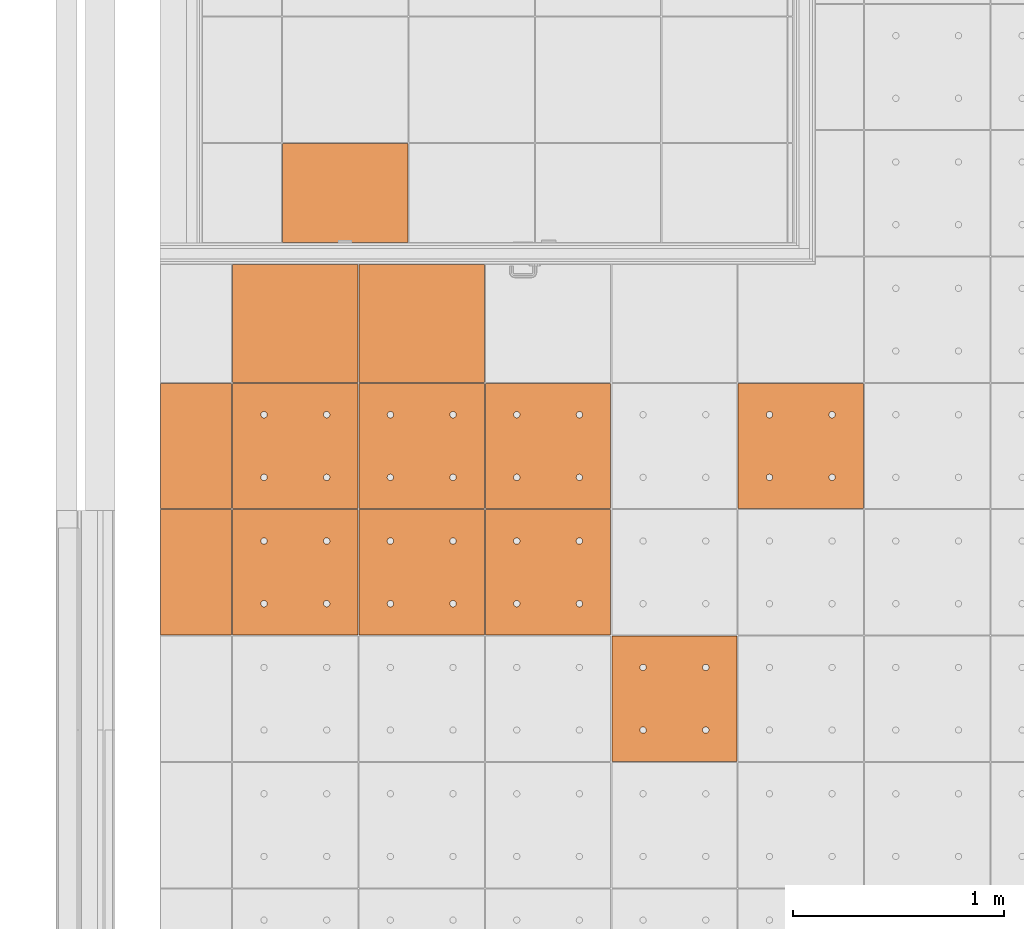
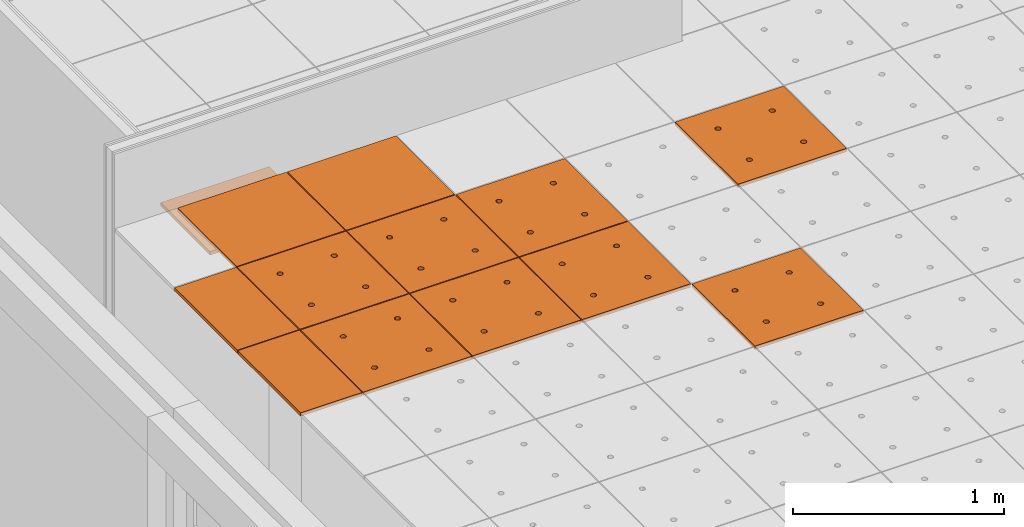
# One storey, part 240 of 338: 13 proxies, 2 elements without a shape of their own.
"""IFC2X3 building model written with IfcOpenShell, lengths in millimetres."""

from ifc_helpers import new_model, entity, si_unit, converted_unit, derived_unit, money_unit, direction, frame, origin_with_axes, place, context, subcontext, project, spatial, faceted_brep, source, transform, mapped, material, type_object, type_shapes, element, aggregate, save


model = new_model("IFC2X3")

# Units and contexts
model_context = context("Model", 3, precision=0.01, world=origin_with_axes(), true_north=direction((0.0, 1.0)))
plan_context = context("Plan", 3, precision=0.01, world=origin_with_axes(), true_north=direction((0.0, 1.0)))
body_context = subcontext(model_context, "Body", "Model", "MODEL_VIEW")
ifc_project = project(units=[si_unit("LENGTHUNIT", "METRE", prefix="MILLI"), si_unit("AREAUNIT", "SQUARE_METRE"), si_unit("VOLUMEUNIT", "CUBIC_METRE"), converted_unit("PLANEANGLEUNIT", "DEGREE", entity("IfcPlaneAngleMeasure", 0.0174532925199), si_unit("PLANEANGLEUNIT", "RADIAN"), dimensions=[0, 0, 0, 0, 0, 0, 0]), money_unit("EUR"), converted_unit("TIMEUNIT", "Year", entity("IfcTimeMeasure", 31556926.0), si_unit("TIMEUNIT", "SECOND"), dimensions=[0, 0, 1, 0, 0, 0, 0]), si_unit("MASSUNIT", "GRAM", prefix="KILO"), si_unit("THERMODYNAMICTEMPERATUREUNIT", "DEGREE_CELSIUS"), si_unit("LUMINOUSINTENSITYUNIT", "LUMEN"), si_unit("ENERGYUNIT", "JOULE", prefix="MEGA"), derived_unit("THERMALCONDUCTANCEUNIT", [(si_unit("POWERUNIT", "WATT"), 1), (si_unit("LENGTHUNIT", "METRE"), -1), (si_unit("THERMODYNAMICTEMPERATUREUNIT", "KELVIN"), -1)]), derived_unit("SPECIFICHEATCAPACITYUNIT", [(si_unit("ENERGYUNIT", "JOULE"), 1), (si_unit("MASSUNIT", "GRAM", prefix="KILO"), -1), (si_unit("THERMODYNAMICTEMPERATUREUNIT", "KELVIN"), -1)]), derived_unit("MASSDENSITYUNIT", [(si_unit("MASSUNIT", "GRAM", prefix="KILO"), 1), (si_unit("VOLUMEUNIT", "CUBIC_METRE"), -1)])], contexts=[model_context, plan_context])

# Site, building, storey
site_placement = place(None, origin_with_axes())
site = spatial("IfcSite", under=ifc_project, at=site_placement, Name="Fortuinstraat Woensdrecht", CompositionType="ELEMENT")
building_placement = place(site_placement, origin_with_axes())
building = spatial("IfcBuilding", under=site, at=building_placement, Name="IKC Fortuna", CompositionType="ELEMENT")
storey_placement = place(building_placement, origin_with_axes())
storey = spatial("IfcBuildingStorey", under=building, at=storey_placement, Name="00 begane grond", CompositionType="ELEMENT", Elevation=0.0)

# Covering, proxy
covering_type = type_object("IfcCoveringType", Name="Curtain Wall Type", PredefinedType="CEILING")
covering_1_placement = place(storey_placement, frame((14689.4846177, 25257.3287491, 2810.0), z_axis=(0.0, 0.0, 1.0), x_axis=(1.0, 0.0, 0.0)))
covering_1 = element("IfcCovering", 1, at=covering_1_placement, inside=storey, type_object=covering_type, Name="45_Plafondafwerking_P02", PredefinedType="CEILING")
ifc_material = material(Name="Gipsplaat")
building_element_proxy_type_1 = type_object("IfcBuildingElementProxyType", Name="Distinct Panel 600 x 475 x 20", PredefinedType="NOTDEFINED")
shared_shape_1 = source(origin_with_axes(), body_context, "Body", "Brep", [
    faceted_brep([(-2.49999999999, 2.50000037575, -10.0), (-2.49999999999, 2.50000037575, 10.0), (-597.5, 2.50000037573, 10.0), (-597.5, 2.50000037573, -10.0), (-2.50000000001, 472.282240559, -10.0), (-2.50000000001, 472.282240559, 10.0), (-597.5, 472.282240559, 10.0), (-597.5, 472.282240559, -10.0)], [[[0, 1, 2, 3]], [[4, 5, 1, 0]], [[1, 5, 6, 2]], [[3, 2, 6, 7]], [[0, 3, 7, 4]], [[7, 6, 5, 4]]]),
])
type_shapes(building_element_proxy_type_1, [shared_shape_1])
proxy_1_placement = place(covering_1_placement, frame((0.0, -1737.39112028, 0.0), z_axis=(0.0, 0.0, 1.0), x_axis=(1.0, 0.0, 0.0)))
proxy_1 = element("IfcBuildingElementProxy", 2, at=proxy_1_placement, type_object=building_element_proxy_type_1, material=ifc_material, Name="__Panel-D", context=body_context, shape_type="MappedRepresentation", body=[
    mapped(shared_shape_1, transform((-300.0, 237.391120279, 0.0), x_axis=(-1.0, 0.0, 0.0), y_axis=(0.0, -1.0, 0.0), z_axis=(0.0, 0.0, 1.0))),
])
aggregate(covering_1, [proxy_1])

# Covering, proxies
covering_2_placement = place(storey_placement, frame((17451.9845996, 24118.5314449, 3210.0), z_axis=(0.0, 0.0, 1.0), x_axis=(1.0, 0.0, 0.0)))
covering_2 = element("IfcCovering", 3, at=covering_2_placement, inside=storey, type_object=covering_type, Name="45_Plafondafwerking_P01", PredefinedType="CEILING")
building_element_proxy_type_2 = type_object("IfcBuildingElementProxyType", Name="Main Panel 600 x 600 x 20", PredefinedType="NOTDEFINED")
shared_shape_2 = source(origin_with_axes(), body_context, "Body", "Brep", [
    faceted_brep([(2.49999999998, 2.49999999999, -10.0), (300.0, 2.49999999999, -10.0), (300.0, 2.49999999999, 10.0), (2.49999999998, 2.49999999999, 10.0), (2.49999999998, 300.0, -10.0), (2.49999999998, 597.5, -10.0), (300.0, 597.5, -10.0), (597.5, 597.5, -10.0), (597.5, 300.0, -10.0), (597.5, 2.49999999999, -10.0), (166.25, 450.06232995, -10.0), (165.79423259, 452.64711538, -10.0), (164.896546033, 455.11348892, -10.0), (163.58421608, 457.38651108, -10.0), (161.897117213, 459.39711721, -10.0), (159.886511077, 461.08421608, -10.0), (157.613488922, 462.39654603, -10.0), (155.147115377, 463.29423259, -10.0), (152.562329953, 463.75, -10.0), (149.937670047, 463.75, -10.0), (147.352884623, 463.29423259, -10.0), (144.886511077, 462.39654603, -10.0), (142.613488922, 461.08421608, -10.0), (140.602882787, 459.39711721, -10.0), (138.91578392, 457.38651108, -10.0), (137.603453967, 455.11348892, -10.0), (136.705767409, 452.64711538, -10.0), (136.25, 450.06232995, -10.0), (136.25, 448.75, -10.0), (136.25, 447.43767005, -10.0), (136.705767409, 444.85288462, -10.0), (137.603453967, 442.38651108, -10.0), (138.91578392, 440.11348892, -10.0), (140.602882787, 438.10288279, -10.0), (142.613488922, 436.41578392, -10.0), (144.886511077, 435.10345397, -10.0), (147.352884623, 434.20576741, -10.0), (149.937670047, 433.75, -10.0), (152.562329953, 433.75, -10.0), (155.147115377, 434.20576741, -10.0), (157.613488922, 435.10345397, -10.0), (159.886511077, 436.41578392, -10.0), (161.897117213, 438.10288279, -10.0), (163.58421608, 440.11348892, -10.0), (164.896546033, 442.38651108, -10.0), (165.79423259, 444.85288462, -10.0), (166.25, 447.43767005, -10.0), (463.75, 450.06232995, -10.0), (463.29423259, 452.64711538, -10.0), (462.396546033, 455.11348892, -10.0), (461.08421608, 457.38651108, -10.0), (459.397117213, 459.39711721, -10.0), (457.386511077, 461.08421608, -10.0), (455.113488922, 462.39654603, -10.0), (452.647115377, 463.29423259, -10.0), (450.062329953, 463.75, -10.0), (447.437670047, 463.75, -10.0), (444.852884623, 463.29423259, -10.0), (442.386511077, 462.39654603, -10.0), (440.113488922, 461.08421608, -10.0), (438.102882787, 459.39711721, -10.0), (436.41578392, 457.38651108, -10.0), (435.103453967, 455.11348892, -10.0), (434.205767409, 452.64711538, -10.0), (433.75, 450.06232995, -10.0), (433.75, 448.75, -10.0), (433.75, 447.43767005, -10.0), (434.205767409, 444.85288462, -10.0), (435.103453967, 442.38651108, -10.0), (436.41578392, 440.11348892, -10.0), (438.102882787, 438.10288279, -10.0), (440.113488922, 436.41578392, -10.0), (442.386511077, 435.10345397, -10.0), (444.852884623, 434.20576741, -10.0), (447.437670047, 433.75, -10.0), (450.062329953, 433.75, -10.0), (452.647115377, 434.20576741, -10.0), (455.113488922, 435.10345397, -10.0), (457.386511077, 436.41578392, -10.0), (459.397117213, 438.10288279, -10.0), (461.08421608, 440.11348892, -10.0), (462.396546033, 442.38651108, -10.0), (463.29423259, 444.85288462, -10.0), (463.75, 447.43767005, -10.0), (463.75, 152.56232995, -10.0), (463.29423259, 155.14711538, -10.0), (462.396546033, 157.61348892, -10.0), (461.08421608, 159.88651108, -10.0), (459.397117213, 161.89711721, -10.0), (457.386511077, 163.58421608, -10.0), (455.113488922, 164.89654603, -10.0), (452.647115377, 165.79423259, -10.0), (450.062329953, 166.25, -10.0), (447.437670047, 166.25, -10.0), (444.852884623, 165.79423259, -10.0), (442.386511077, 164.89654603, -10.0), (440.113488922, 163.58421608, -10.0), (438.102882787, 161.89711721, -10.0), (436.41578392, 159.88651108, -10.0), (435.103453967, 157.61348892, -10.0), (434.205767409, 155.14711538, -10.0), (433.75, 152.56232995, -10.0), (433.75, 151.25, -10.0), (433.75, 149.93767005, -10.0), (434.205767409, 147.35288462, -10.0), (435.103453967, 144.88651108, -10.0), (436.41578392, 142.61348892, -10.0), (438.102882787, 140.60288279, -10.0), (440.113488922, 138.91578392, -10.0), (442.386511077, 137.60345397, -10.0), (444.852884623, 136.70576741, -10.0), (447.437670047, 136.25, -10.0), (450.062329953, 136.25, -10.0), (452.647115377, 136.70576741, -10.0), (455.113488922, 137.60345397, -10.0), (457.386511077, 138.91578392, -10.0), (459.397117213, 140.60288279, -10.0), (461.08421608, 142.61348892, -10.0), (462.396546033, 144.88651108, -10.0), (463.29423259, 147.35288462, -10.0), (463.75, 149.93767005, -10.0), (166.25, 152.56232995, -10.0), (165.79423259, 155.14711538, -10.0), (164.896546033, 157.61348892, -10.0), (163.58421608, 159.88651108, -10.0), (161.897117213, 161.89711721, -10.0), (159.886511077, 163.58421608, -10.0), (157.613488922, 164.89654603, -10.0), (155.147115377, 165.79423259, -10.0), (152.562329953, 166.25, -10.0), (149.937670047, 166.25, -10.0), (147.352884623, 165.79423259, -10.0), (144.886511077, 164.89654603, -10.0), (142.613488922, 163.58421608, -10.0), (140.602882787, 161.89711721, -10.0), (138.91578392, 159.88651108, -10.0), (137.603453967, 157.61348892, -10.0), (136.705767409, 155.14711538, -10.0), (136.25, 152.56232995, -10.0), (136.25, 151.25, -10.0), (136.25, 149.93767005, -10.0), (136.705767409, 147.35288462, -10.0), (137.603453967, 144.88651108, -10.0), (138.91578392, 142.61348892, -10.0), (140.602882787, 140.60288279, -10.0), (142.613488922, 138.91578392, -10.0), (144.886511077, 137.60345397, -10.0), (147.352884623, 136.70576741, -10.0), (149.937670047, 136.25, -10.0), (152.562329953, 136.25, -10.0), (155.147115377, 136.70576741, -10.0), (157.613488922, 137.60345397, -10.0), (159.886511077, 138.91578392, -10.0), (161.897117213, 140.60288279, -10.0), (163.58421608, 142.61348892, -10.0), (164.896546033, 144.88651108, -10.0), (165.79423259, 147.35288462, -10.0), (166.25, 149.93767005, -10.0), (597.5, 2.49999999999, 10.0), (597.5, 300.0, 10.0), (597.5, 597.5, 10.0), (300.0, 597.5, 10.0), (2.49999999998, 597.5, 10.0), (2.49999999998, 300.0, 10.0), (166.25, 450.06232995, 10.0), (166.25, 447.43767005, 10.0), (165.79423259, 444.85288462, 10.0), (164.896546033, 442.38651108, 10.0), (163.58421608, 440.11348892, 10.0), (161.897117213, 438.10288279, 10.0), (159.886511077, 436.41578392, 10.0), (157.613488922, 435.10345397, 10.0), (155.147115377, 434.20576741, 10.0), (152.562329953, 433.75, 10.0), (149.937670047, 433.75, 10.0), (147.352884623, 434.20576741, 10.0), (144.886511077, 435.10345397, 10.0), (142.613488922, 436.41578392, 10.0), (140.602882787, 438.10288279, 10.0), (138.91578392, 440.11348892, 10.0), (137.603453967, 442.38651108, 10.0), (136.705767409, 444.85288462, 10.0), (136.25, 447.43767005, 10.0), (136.25, 448.75, 10.0), (136.25, 450.06232995, 10.0), (136.705767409, 452.64711538, 10.0), (137.603453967, 455.11348892, 10.0), (138.91578392, 457.38651108, 10.0), (140.602882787, 459.39711721, 10.0), (142.613488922, 461.08421608, 10.0), (144.886511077, 462.39654603, 10.0), (147.352884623, 463.29423259, 10.0), (149.937670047, 463.75, 10.0), (152.562329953, 463.75, 10.0), (155.147115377, 463.29423259, 10.0), (157.613488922, 462.39654603, 10.0), (159.886511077, 461.08421608, 10.0), (161.897117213, 459.39711721, 10.0), (163.58421608, 457.38651108, 10.0), (164.896546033, 455.11348892, 10.0), (165.79423259, 452.64711538, 10.0), (463.75, 450.06232995, 10.0), (463.75, 447.43767005, 10.0), (463.29423259, 444.85288462, 10.0), (462.396546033, 442.38651108, 10.0), (461.08421608, 440.11348892, 10.0), (459.397117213, 438.10288279, 10.0), (457.386511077, 436.41578392, 10.0), (455.113488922, 435.10345397, 10.0), (452.647115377, 434.20576741, 10.0), (450.062329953, 433.75, 10.0), (447.437670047, 433.75, 10.0), (444.852884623, 434.20576741, 10.0), (442.386511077, 435.10345397, 10.0), (440.113488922, 436.41578392, 10.0), (438.102882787, 438.10288279, 10.0), (436.41578392, 440.11348892, 10.0), (435.103453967, 442.38651108, 10.0), (434.205767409, 444.85288462, 10.0), (433.75, 447.43767005, 10.0), (433.75, 448.75, 10.0), (433.75, 450.06232995, 10.0), (434.205767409, 452.64711538, 10.0), (435.103453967, 455.11348892, 10.0), (436.41578392, 457.38651108, 10.0), (438.102882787, 459.39711721, 10.0), (440.113488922, 461.08421608, 10.0), (442.386511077, 462.39654603, 10.0), (444.852884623, 463.29423259, 10.0), (447.437670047, 463.75, 10.0), (450.062329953, 463.75, 10.0), (452.647115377, 463.29423259, 10.0), (455.113488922, 462.39654603, 10.0), (457.386511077, 461.08421608, 10.0), (459.397117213, 459.39711721, 10.0), (461.08421608, 457.38651108, 10.0), (462.396546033, 455.11348892, 10.0), (463.29423259, 452.64711538, 10.0), (463.75, 152.56232995, 10.0), (463.75, 149.93767005, 10.0), (463.29423259, 147.35288462, 10.0), (462.396546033, 144.88651108, 10.0), (461.08421608, 142.61348892, 10.0), (459.397117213, 140.60288279, 10.0), (457.386511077, 138.91578392, 10.0), (455.113488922, 137.60345397, 10.0), (452.647115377, 136.70576741, 10.0), (450.062329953, 136.25, 10.0), (447.437670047, 136.25, 10.0), (444.852884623, 136.70576741, 10.0), (442.386511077, 137.60345397, 10.0), (440.113488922, 138.91578392, 10.0), (438.102882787, 140.60288279, 10.0), (436.41578392, 142.61348892, 10.0), (435.103453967, 144.88651108, 10.0), (434.205767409, 147.35288462, 10.0), (433.75, 149.93767005, 10.0), (433.75, 151.25, 10.0), (433.75, 152.56232995, 10.0), (434.205767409, 155.14711538, 10.0), (435.103453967, 157.61348892, 10.0), (436.41578392, 159.88651108, 10.0), (438.102882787, 161.89711721, 10.0), (440.113488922, 163.58421608, 10.0), (442.386511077, 164.89654603, 10.0), (444.852884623, 165.79423259, 10.0), (447.437670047, 166.25, 10.0), (450.062329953, 166.25, 10.0), (452.647115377, 165.79423259, 10.0), (455.113488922, 164.89654603, 10.0), (457.386511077, 163.58421608, 10.0), (459.397117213, 161.89711721, 10.0), (461.08421608, 159.88651108, 10.0), (462.396546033, 157.61348892, 10.0), (463.29423259, 155.14711538, 10.0), (166.25, 152.56232995, 10.0), (166.25, 149.93767005, 10.0), (165.79423259, 147.35288462, 10.0), (164.896546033, 144.88651108, 10.0), (163.58421608, 142.61348892, 10.0), (161.897117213, 140.60288279, 10.0), (159.886511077, 138.91578392, 10.0), (157.613488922, 137.60345397, 10.0), (155.147115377, 136.70576741, 10.0), (152.562329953, 136.25, 10.0), (149.937670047, 136.25, 10.0), (147.352884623, 136.70576741, 10.0), (144.886511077, 137.60345397, 10.0), (142.613488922, 138.91578392, 10.0), (140.602882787, 140.60288279, 10.0), (138.91578392, 142.61348892, 10.0), (137.603453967, 144.88651108, 10.0), (136.705767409, 147.35288462, 10.0), (136.25, 149.93767005, 10.0), (136.25, 151.25, 10.0), (136.25, 152.56232995, 10.0), (136.705767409, 155.14711538, 10.0), (137.603453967, 157.61348892, 10.0), (138.91578392, 159.88651108, 10.0), (140.602882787, 161.89711721, 10.0), (142.613488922, 163.58421608, 10.0), (144.886511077, 164.89654603, 10.0), (147.352884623, 165.79423259, 10.0), (149.937670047, 166.25, 10.0), (152.562329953, 166.25, 10.0), (155.147115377, 165.79423259, 10.0), (157.613488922, 164.89654603, 10.0), (159.886511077, 163.58421608, 10.0), (161.897117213, 161.89711721, 10.0), (163.58421608, 159.88651108, 10.0), (164.896546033, 157.61348892, 10.0), (165.79423259, 155.14711538, 10.0)], [[[0, 1, 2, 3]], [[0, 4, 5, 6, 7, 8, 9, 1], [10, 11, 12, 13, 14, 15, 16, 17, 18, 19, 20, 21, 22, 23, 24, 25, 26, 27, 28, 29, 30, 31, 32, 33, 34, 35, 36, 37, 38, 39, 40, 41, 42, 43, 44, 45, 46], [47, 48, 49, 50, 51, 52, 53, 54, 55, 56, 57, 58, 59, 60, 61, 62, 63, 64, 65, 66, 67, 68, 69, 70, 71, 72, 73, 74, 75, 76, 77, 78, 79, 80, 81, 82, 83], [84, 85, 86, 87, 88, 89, 90, 91, 92, 93, 94, 95, 96, 97, 98, 99, 100, 101, 102, 103, 104, 105, 106, 107, 108, 109, 110, 111, 112, 113, 114, 115, 116, 117, 118, 119, 120], [121, 122, 123, 124, 125, 126, 127, 128, 129, 130, 131, 132, 133, 134, 135, 136, 137, 138, 139, 140, 141, 142, 143, 144, 145, 146, 147, 148, 149, 150, 151, 152, 153, 154, 155, 156, 157]], [[1, 9, 158, 2]], [[3, 2, 158, 159, 160, 161, 162, 163], [164, 165, 166, 167, 168, 169, 170, 171, 172, 173, 174, 175, 176, 177, 178, 179, 180, 181, 182, 183, 184, 185, 186, 187, 188, 189, 190, 191, 192, 193, 194, 195, 196, 197, 198, 199, 200], [201, 202, 203, 204, 205, 206, 207, 208, 209, 210, 211, 212, 213, 214, 215, 216, 217, 218, 219, 220, 221, 222, 223, 224, 225, 226, 227, 228, 229, 230, 231, 232, 233, 234, 235, 236, 237], [238, 239, 240, 241, 242, 243, 244, 245, 246, 247, 248, 249, 250, 251, 252, 253, 254, 255, 256, 257, 258, 259, 260, 261, 262, 263, 264, 265, 266, 267, 268, 269, 270, 271, 272, 273, 274], [275, 276, 277, 278, 279, 280, 281, 282, 283, 284, 285, 286, 287, 288, 289, 290, 291, 292, 293, 294, 295, 296, 297, 298, 299, 300, 301, 302, 303, 304, 305, 306, 307, 308, 309, 310, 311]], [[4, 0, 3, 163]], [[5, 4, 163, 162]], [[6, 5, 162, 161]], [[7, 6, 161, 160]], [[8, 7, 160, 159]], [[9, 8, 159, 158]], [[11, 10, 164, 200]], [[12, 11, 200, 199]], [[13, 12, 199, 198]], [[14, 13, 198, 197]], [[15, 14, 197, 196]], [[16, 15, 196, 195]], [[17, 16, 195, 194]], [[18, 17, 194, 193]], [[19, 18, 193, 192]], [[20, 19, 192, 191]], [[21, 20, 191, 190]], [[22, 21, 190, 189]], [[23, 22, 189, 188]], [[24, 23, 188, 187]], [[25, 24, 187, 186]], [[26, 25, 186, 185]], [[27, 26, 185, 184]], [[28, 27, 184, 183]], [[29, 28, 183, 182]], [[30, 29, 182, 181]], [[31, 30, 181, 180]], [[32, 31, 180, 179]], [[33, 32, 179, 178]], [[34, 33, 178, 177]], [[35, 34, 177, 176]], [[36, 35, 176, 175]], [[37, 36, 175, 174]], [[38, 37, 174, 173]], [[39, 38, 173, 172]], [[40, 39, 172, 171]], [[41, 40, 171, 170]], [[42, 41, 170, 169]], [[43, 42, 169, 168]], [[44, 43, 168, 167]], [[45, 44, 167, 166]], [[46, 45, 166, 165]], [[10, 46, 165, 164]], [[48, 47, 201, 237]], [[49, 48, 237, 236]], [[50, 49, 236, 235]], [[51, 50, 235, 234]], [[52, 51, 234, 233]], [[53, 52, 233, 232]], [[54, 53, 232, 231]], [[55, 54, 231, 230]], [[56, 55, 230, 229]], [[57, 56, 229, 228]], [[58, 57, 228, 227]], [[59, 58, 227, 226]], [[60, 59, 226, 225]], [[61, 60, 225, 224]], [[62, 61, 224, 223]], [[63, 62, 223, 222]], [[64, 63, 222, 221]], [[65, 64, 221, 220]], [[66, 65, 220, 219]], [[67, 66, 219, 218]], [[68, 67, 218, 217]], [[69, 68, 217, 216]], [[70, 69, 216, 215]], [[71, 70, 215, 214]], [[72, 71, 214, 213]], [[73, 72, 213, 212]], [[74, 73, 212, 211]], [[75, 74, 211, 210]], [[76, 75, 210, 209]], [[77, 76, 209, 208]], [[78, 77, 208, 207]], [[79, 78, 207, 206]], [[80, 79, 206, 205]], [[81, 80, 205, 204]], [[82, 81, 204, 203]], [[83, 82, 203, 202]], [[47, 83, 202, 201]], [[85, 84, 238, 274]], [[86, 85, 274, 273]], [[87, 86, 273, 272]], [[88, 87, 272, 271]], [[89, 88, 271, 270]], [[90, 89, 270, 269]], [[91, 90, 269, 268]], [[92, 91, 268, 267]], [[93, 92, 267, 266]], [[94, 93, 266, 265]], [[95, 94, 265, 264]], [[96, 95, 264, 263]], [[97, 96, 263, 262]], [[98, 97, 262, 261]], [[99, 98, 261, 260]], [[100, 99, 260, 259]], [[101, 100, 259, 258]], [[102, 101, 258, 257]], [[103, 102, 257, 256]], [[104, 103, 256, 255]], [[105, 104, 255, 254]], [[106, 105, 254, 253]], [[107, 106, 253, 252]], [[108, 107, 252, 251]], [[109, 108, 251, 250]], [[110, 109, 250, 249]], [[111, 110, 249, 248]], [[112, 111, 248, 247]], [[113, 112, 247, 246]], [[114, 113, 246, 245]], [[115, 114, 245, 244]], [[116, 115, 244, 243]], [[117, 116, 243, 242]], [[118, 117, 242, 241]], [[119, 118, 241, 240]], [[120, 119, 240, 239]], [[84, 120, 239, 238]], [[122, 121, 275, 311]], [[123, 122, 311, 310]], [[124, 123, 310, 309]], [[125, 124, 309, 308]], [[126, 125, 308, 307]], [[127, 126, 307, 306]], [[128, 127, 306, 305]], [[129, 128, 305, 304]], [[130, 129, 304, 303]], [[131, 130, 303, 302]], [[132, 131, 302, 301]], [[133, 132, 301, 300]], [[134, 133, 300, 299]], [[135, 134, 299, 298]], [[136, 135, 298, 297]], [[137, 136, 297, 296]], [[138, 137, 296, 295]], [[139, 138, 295, 294]], [[140, 139, 294, 293]], [[141, 140, 293, 292]], [[142, 141, 292, 291]], [[143, 142, 291, 290]], [[144, 143, 290, 289]], [[145, 144, 289, 288]], [[146, 145, 288, 287]], [[147, 146, 287, 286]], [[148, 147, 286, 285]], [[149, 148, 285, 284]], [[150, 149, 284, 283]], [[151, 150, 283, 282]], [[152, 151, 282, 281]], [[153, 152, 281, 280]], [[154, 153, 280, 279]], [[155, 154, 279, 278]], [[156, 155, 278, 277]], [[157, 156, 277, 276]], [[121, 157, 276, 275]]]),
])
type_shapes(building_element_proxy_type_2, [shared_shape_2])
proxy_2_placement = place(covering_2_placement, frame((-600.0, -1800.0, 1.1768364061e-10), z_axis=(0.0, 0.0, 1.0), x_axis=(1.0, 0.0, 0.0)))
proxy_2 = element("IfcBuildingElementProxy", 4, at=proxy_2_placement, type_object=building_element_proxy_type_2, material=ifc_material, Name="__600x641 Rockfon Krios", context=body_context, shape_type="MappedRepresentation", body=[
    mapped(shared_shape_2, transform((300.0, 300.0, 0.0), x_axis=(-1.0, 0.0, 0.0), y_axis=(0.0, -1.0, 0.0), z_axis=(0.0, 0.0, 1.0))),
])
proxy_3_placement = place(covering_2_placement, frame((-3000.0, -1800.0, 1.96287430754e-10), z_axis=(0.0, 0.0, 1.0), x_axis=(1.0, 0.0, 0.0)))
proxy_3 = element("IfcBuildingElementProxy", 5, at=proxy_3_placement, type_object=building_element_proxy_type_2, material=ifc_material, Name="__600x727 Rockfon Krios", context=body_context, shape_type="MappedRepresentation", body=[
    mapped(shared_shape_2, transform((300.0, 300.0, 0.0), x_axis=(-1.0, 0.0, 0.0), y_axis=(0.0, -1.0, 0.0), z_axis=(0.0, 0.0, 1.0))),
])
proxy_4_placement = place(covering_2_placement, frame((-3000.0, -2400.0, 1.96287430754e-10), z_axis=(0.0, 0.0, 1.0), x_axis=(1.0, 0.0, 0.0)))
proxy_4 = element("IfcBuildingElementProxy", 6, at=proxy_4_placement, type_object=building_element_proxy_type_2, material=ifc_material, Name="__600x728 Rockfon Krios", context=body_context, shape_type="MappedRepresentation", body=[
    mapped(shared_shape_2, transform((300.0, 300.0, 0.0), x_axis=(-1.0, 0.0, 0.0), y_axis=(0.0, -1.0, 0.0), z_axis=(0.0, 0.0, 1.0))),
])
proxy_5_placement = place(covering_2_placement, frame((-1800.0, -1800.0, 1.56763491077e-10), z_axis=(0.0, 0.0, 1.0), x_axis=(1.0, 0.0, 0.0)))
proxy_5 = element("IfcBuildingElementProxy", 7, at=proxy_5_placement, type_object=building_element_proxy_type_2, material=ifc_material, Name="__600x742 Rockfon Krios", context=body_context, shape_type="MappedRepresentation", body=[
    mapped(shared_shape_2, transform((300.0, 300.0, 0.0), x_axis=(-1.0, 0.0, 0.0), y_axis=(0.0, -1.0, 0.0), z_axis=(0.0, 0.0, 1.0))),
])
proxy_6_placement = place(covering_2_placement, frame((-1800.0, -2400.0, 1.56763491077e-10), z_axis=(0.0, 0.0, 1.0), x_axis=(1.0, 0.0, 0.0)))
proxy_6 = element("IfcBuildingElementProxy", 8, at=proxy_6_placement, type_object=building_element_proxy_type_2, material=ifc_material, Name="__600x750 Rockfon Krios", context=body_context, shape_type="MappedRepresentation", body=[
    mapped(shared_shape_2, transform((300.0, 300.0, 0.0), x_axis=(-1.0, 0.0, 0.0), y_axis=(0.0, -1.0, 0.0), z_axis=(0.0, 0.0, 1.0))),
])
proxy_7_placement = place(covering_2_placement, frame((-2400.0, -1800.0, 1.7630341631e-10), z_axis=(0.0, 0.0, 1.0), x_axis=(1.0, 0.0, 0.0)))
proxy_7 = element("IfcBuildingElementProxy", 9, at=proxy_7_placement, type_object=building_element_proxy_type_2, material=ifc_material, Name="__600x751 Rockfon Krios", context=body_context, shape_type="MappedRepresentation", body=[
    mapped(shared_shape_2, transform((300.0, 300.0, 0.0), x_axis=(-1.0, 0.0, 0.0), y_axis=(0.0, -1.0, 0.0), z_axis=(0.0, 0.0, 1.0))),
])
proxy_8_placement = place(covering_2_placement, frame((-2400.0, -2400.0, 1.7630341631e-10), z_axis=(0.0, 0.0, 1.0), x_axis=(1.0, 0.0, 0.0)))
proxy_8 = element("IfcBuildingElementProxy", 10, at=proxy_8_placement, type_object=building_element_proxy_type_2, material=ifc_material, Name="__600x752 Rockfon Krios", context=body_context, shape_type="MappedRepresentation", body=[
    mapped(shared_shape_2, transform((300.0, 300.0, 0.0), x_axis=(-1.0, 0.0, 0.0), y_axis=(0.0, -1.0, 0.0), z_axis=(0.0, 0.0, 1.0))),
])
proxy_9_placement = place(covering_2_placement, frame((-1200.0, -3000.0, 1.37223565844e-10), z_axis=(0.0, 0.0, 1.0), x_axis=(1.0, 0.0, 0.0)))
proxy_9 = element("IfcBuildingElementProxy", 11, at=proxy_9_placement, type_object=building_element_proxy_type_2, material=ifc_material, Name="__600x781 Rockfon Krios", context=body_context, shape_type="MappedRepresentation", body=[
    mapped(shared_shape_2, transform((300.0, 300.0, 0.0), x_axis=(-1.0, 0.0, 0.0), y_axis=(0.0, -1.0, 0.0), z_axis=(0.0, 0.0, 1.0))),
])
building_element_proxy_type_3 = type_object("IfcBuildingElementProxyType", Name="343 x 600 x 20", PredefinedType="NOTDEFINED")
shared_shape_3 = source(origin_with_axes(), body_context, "Body", "Brep", [
    faceted_brep([(2.49999910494, 2.5, -10.0), (340.049548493, 2.49999999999, -10.0), (340.049548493, 2.49999999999, 10.0), (2.49999910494, 2.5, 10.0), (2.49999910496, 597.5, -10.0), (340.049548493, 597.5, -10.0), (340.049548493, 597.5, 10.0), (2.49999910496, 597.5, 10.0)], [[[0, 1, 2, 3]], [[0, 4, 5, 1]], [[1, 5, 6, 2]], [[3, 2, 6, 7]], [[4, 0, 3, 7]], [[5, 4, 7, 6]]]),
])
type_shapes(building_element_proxy_type_3, [shared_shape_3])
proxy_10_placement = place(covering_2_placement, frame((-3471.27477425, -1800.0, 2.11830553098e-10), z_axis=(0.0, 0.0, 1.0), x_axis=(1.0, 0.0, 0.0)))
proxy_10 = element("IfcBuildingElementProxy", 12, at=proxy_10_placement, type_object=building_element_proxy_type_3, material=ifc_material, Name="__600x627 Rockfon Krios", context=body_context, shape_type="MappedRepresentation", body=[
    mapped(shared_shape_3, transform((171.274774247, 300.0, 0.0), x_axis=(-1.0, 0.0, 0.0), y_axis=(0.0, -1.0, 0.0), z_axis=(0.0, 0.0, 1.0))),
])
proxy_11_placement = place(covering_2_placement, frame((-3471.27477425, -2400.0, 2.11830553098e-10), z_axis=(0.0, 0.0, 1.0), x_axis=(1.0, 0.0, 0.0)))
proxy_11 = element("IfcBuildingElementProxy", 13, at=proxy_11_placement, type_object=building_element_proxy_type_3, material=ifc_material, Name="__600x777 Rockfon Krios", context=body_context, shape_type="MappedRepresentation", body=[
    mapped(shared_shape_3, transform((171.274774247, 300.0, 0.0), x_axis=(-1.0, 0.0, 0.0), y_axis=(0.0, -1.0, 0.0), z_axis=(0.0, 0.0, 1.0))),
])
building_element_proxy_type_4 = type_object("IfcBuildingElementProxyType", Name="600 x 564 x 20", PredefinedType="NOTDEFINED")
shared_shape_4 = source(origin_with_axes(), body_context, "Body", "Brep", [
    faceted_brep([(2.49999999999, 38.4849885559, -10.0), (597.5, 38.4849885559, -10.0), (597.5, 38.4849885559, 10.0), (2.49999999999, 38.4849885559, 10.0), (2.50000000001, 597.5, -10.0), (597.5, 597.5, -10.0), (597.5, 597.5, 10.0), (2.50000000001, 597.5, 10.0)], [[[0, 1, 2, 3]], [[0, 4, 5, 1]], [[1, 5, 6, 2]], [[3, 2, 6, 7]], [[4, 0, 3, 7]], [[5, 4, 7, 6]]]),
])
type_shapes(building_element_proxy_type_4, [shared_shape_4])
proxy_12_placement = place(covering_2_placement, frame((-2400.0, -1217.99249542, 1.7630341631e-10), z_axis=(0.0, 0.0, 1.0), x_axis=(1.0, 0.0, 0.0)))
proxy_12 = element("IfcBuildingElementProxy", 14, at=proxy_12_placement, type_object=building_element_proxy_type_4, material=ifc_material, Name="__600x639 Rockfon Krios", context=body_context, shape_type="MappedRepresentation", body=[
    mapped(shared_shape_4, transform((300.0, 317.992495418, 0.0), x_axis=(-1.0, 0.0, 0.0), y_axis=(0.0, -1.0, 0.0), z_axis=(0.0, 0.0, 1.0))),
])
proxy_13_placement = place(covering_2_placement, frame((-3000.0, -1217.99249542, 1.96287430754e-10), z_axis=(0.0, 0.0, 1.0), x_axis=(1.0, 0.0, 0.0)))
proxy_13 = element("IfcBuildingElementProxy", 15, at=proxy_13_placement, type_object=building_element_proxy_type_4, material=ifc_material, Name="__600x693 Rockfon Krios", context=body_context, shape_type="MappedRepresentation", body=[
    mapped(shared_shape_4, transform((300.0, 317.992495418, 0.0), x_axis=(-1.0, 0.0, 0.0), y_axis=(0.0, -1.0, 0.0), z_axis=(0.0, 0.0, 1.0))),
])
aggregate(covering_2, [proxy_10, proxy_12, proxy_2, proxy_13, proxy_3, proxy_4, proxy_5, proxy_6, proxy_7, proxy_8, proxy_11, proxy_9])

save(model, "model.ifc")
